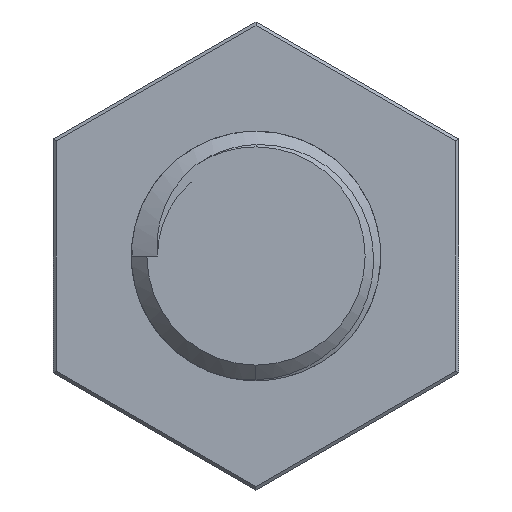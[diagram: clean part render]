
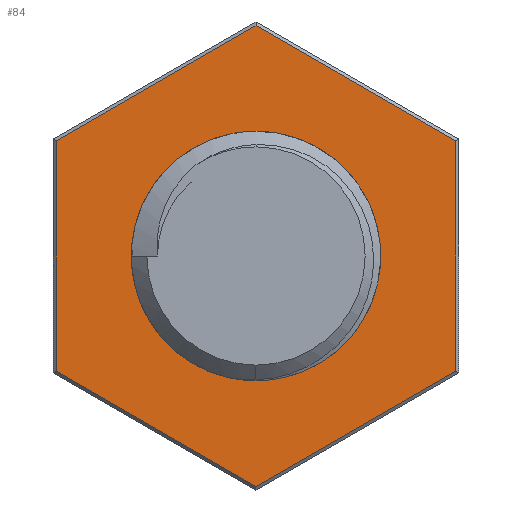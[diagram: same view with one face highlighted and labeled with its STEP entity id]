
A CAD part, front view. The second image highlights one B-rep face of the part: STEP entity #84.
In plain terms, the highlighted planar face has unit normal (0, -1, 0).
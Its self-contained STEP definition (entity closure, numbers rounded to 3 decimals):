
#17 = VERTEX_POINT ( 'NONE', #908 ) ;
#18 = VERTEX_POINT ( 'NONE', #909 ) ;
#19 = VERTEX_POINT ( 'NONE', #910 ) ;
#20 = VERTEX_POINT ( 'NONE', #911 ) ;
#21 = VERTEX_POINT ( 'NONE', #912 ) ;
#22 = VERTEX_POINT ( 'NONE', #914 ) ;
#84 = ADVANCED_FACE ( 'NONE', ( #1541, #1470 ), #407, .T. ) ;
#130 = EDGE_CURVE ( 'NONE', #1008, #1002, #289, .T. ) ;
#131 = EDGE_CURVE ( 'NONE', #17, #19, #2324, .T. ) ;
#132 = EDGE_CURVE ( 'NONE', #18, #22, #2327, .T. ) ;
#133 = EDGE_CURVE ( 'NONE', #22, #20, #2330, .T. ) ;
#134 = EDGE_CURVE ( 'NONE', #20, #21, #2333, .T. ) ;
#135 = EDGE_CURVE ( 'NONE', #21, #17, #2336, .T. ) ;
#145 = EDGE_CURVE ( 'NONE', #19, #18, #2366, .T. ) ;
#187 = EDGE_CURVE ( 'NONE', #1002, #1008, #293, .T. ) ;
#289 = CIRCLE ( 'NONE', #1461, 3.36 ) ;
#293 = CIRCLE ( 'NONE', #1603, 3.36 ) ;
#407 = PLANE ( 'NONE',  #1516 ) ;
#408 = CARTESIAN_POINT ( 'NONE',  ( 0., -5.1, 7.506 ) ) ;
#409 = DIRECTION ( 'NONE',  ( 0., -1., 0. ) ) ;
#410 = DIRECTION ( 'NONE',  ( 0., 0., -1. ) ) ;
#908 = CARTESIAN_POINT ( 'NONE',  ( -6.4, -5.1, -3.695 ) ) ;
#909 = CARTESIAN_POINT ( 'NONE',  ( 6.4, -5.1, -3.695 ) ) ;
#910 = CARTESIAN_POINT ( 'NONE',  ( 0., -5.1, -7.39 ) ) ;
#911 = CARTESIAN_POINT ( 'NONE',  ( 0., -5.1, 7.39 ) ) ;
#912 = CARTESIAN_POINT ( 'NONE',  ( -6.4, -5.1, 3.695 ) ) ;
#914 = CARTESIAN_POINT ( 'NONE',  ( 6.4, -5.1, 3.695 ) ) ;
#1002 = VERTEX_POINT ( 'NONE', #2132 ) ;
#1008 = VERTEX_POINT ( 'NONE', #2138 ) ;
#1259 = ORIENTED_EDGE ( 'NONE', *, *, #135, .T. ) ;
#1260 = ORIENTED_EDGE ( 'NONE', *, *, #134, .T. ) ;
#1261 = ORIENTED_EDGE ( 'NONE', *, *, #133, .T. ) ;
#1262 = ORIENTED_EDGE ( 'NONE', *, *, #145, .T. ) ;
#1263 = ORIENTED_EDGE ( 'NONE', *, *, #132, .T. ) ;
#1264 = ORIENTED_EDGE ( 'NONE', *, *, #131, .T. ) ;
#1265 = ORIENTED_EDGE ( 'NONE', *, *, #130, .T. ) ;
#1269 = ORIENTED_EDGE ( 'NONE', *, *, #187, .T. ) ;
#1347 = EDGE_LOOP ( 'NONE', ( #1269, #1265 ) ) ;
#1348 = EDGE_LOOP ( 'NONE', ( #1264, #1262, #1263, #1261, #1260, #1259 ) ) ;
#1461 = AXIS2_PLACEMENT_3D ( 'NONE', #2320, #2321, #2322 ) ;
#1467 = VECTOR ( 'NONE', #2338, 1000. ) ;
#1470 = FACE_OUTER_BOUND ( 'NONE', #1348, .T. ) ;
#1472 = VECTOR ( 'NONE', #2326, 1000. ) ;
#1492 = VECTOR ( 'NONE', #2332, 1000. ) ;
#1516 = AXIS2_PLACEMENT_3D ( 'NONE', #408, #409, #410 ) ;
#1541 = FACE_BOUND ( 'NONE', #1347, .T. ) ;
#1542 = VECTOR ( 'NONE', #2335, 1000. ) ;
#1555 = VECTOR ( 'NONE', #2329, 1000. ) ;
#1571 = VECTOR ( 'NONE', #2368, 1000. ) ;
#1603 = AXIS2_PLACEMENT_3D ( 'NONE', #2728, #2735, #2736 ) ;
#2132 = CARTESIAN_POINT ( 'NONE',  ( 0., -5.1, -3.36 ) ) ;
#2138 = CARTESIAN_POINT ( 'NONE',  ( 0., -5.1, 3.36 ) ) ;
#2320 = CARTESIAN_POINT ( 'NONE',  ( 0., -5.1, 0. ) ) ;
#2321 = DIRECTION ( 'NONE',  ( 0., 1., 0. ) ) ;
#2322 = DIRECTION ( 'NONE',  ( 0., 0., -1. ) ) ;
#2324 = LINE ( 'NONE', #2325, #1472 ) ;
#2325 = CARTESIAN_POINT ( 'NONE',  ( 0.05, -5.1, -7.419 ) ) ;
#2326 = DIRECTION ( 'NONE',  ( 0.866, 0., -0.5 ) ) ;
#2327 = LINE ( 'NONE', #2328, #1555 ) ;
#2328 = CARTESIAN_POINT ( 'NONE',  ( 6.4, -5.1, 3.753 ) ) ;
#2329 = DIRECTION ( 'NONE',  ( 0., 0., 1. ) ) ;
#2330 = LINE ( 'NONE', #2331, #1492 ) ;
#2331 = CARTESIAN_POINT ( 'NONE',  ( -0.05, -5.1, 7.419 ) ) ;
#2332 = DIRECTION ( 'NONE',  ( -0.866, 0., 0.5 ) ) ;
#2333 = LINE ( 'NONE', #2334, #1542 ) ;
#2334 = CARTESIAN_POINT ( 'NONE',  ( -6.45, -5.1, 3.666 ) ) ;
#2335 = DIRECTION ( 'NONE',  ( -0.866, 0., -0.5 ) ) ;
#2336 = LINE ( 'NONE', #2337, #1467 ) ;
#2337 = CARTESIAN_POINT ( 'NONE',  ( -6.4, -5.1, -3.753 ) ) ;
#2338 = DIRECTION ( 'NONE',  ( 0., 0., -1. ) ) ;
#2366 = LINE ( 'NONE', #2367, #1571 ) ;
#2367 = CARTESIAN_POINT ( 'NONE',  ( 6.45, -5.1, -3.666 ) ) ;
#2368 = DIRECTION ( 'NONE',  ( 0.866, 0., 0.5 ) ) ;
#2728 = CARTESIAN_POINT ( 'NONE',  ( 0., -5.1, 0. ) ) ;
#2735 = DIRECTION ( 'NONE',  ( 0., 1., 0. ) ) ;
#2736 = DIRECTION ( 'NONE',  ( 0., 0., -1. ) ) ;
